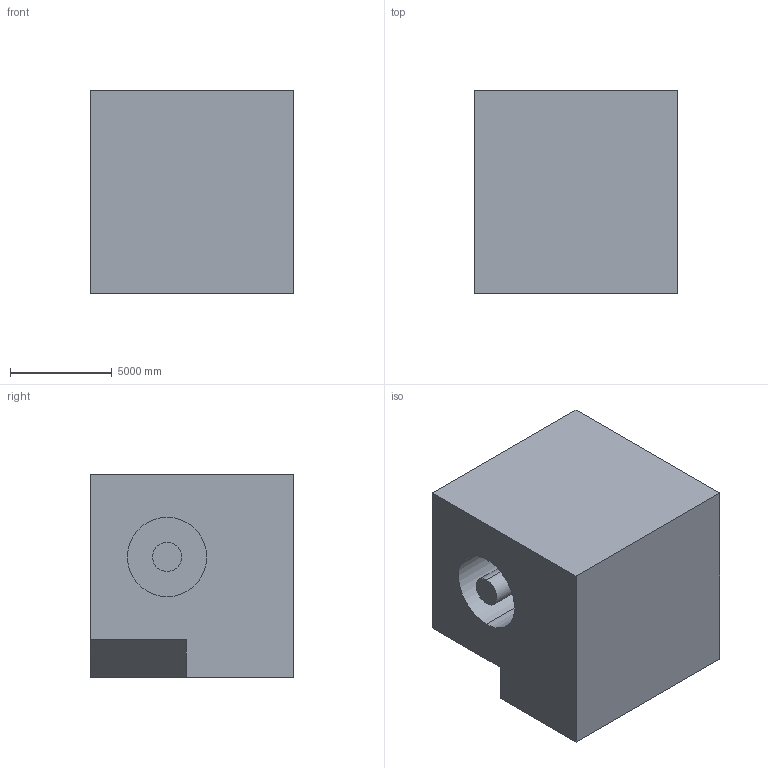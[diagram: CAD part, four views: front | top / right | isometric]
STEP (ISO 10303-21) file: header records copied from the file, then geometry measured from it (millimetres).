
FILE_DESCRIPTION (( 'STEP AP203' ), '1' );
FILE_NAME ('158.STEP', '2022-07-28T13:46:05', ( 'user' ), ( '' ), 'SwSTEP 2.0', 'SolidWorks 2021', '' );
FILE_SCHEMA (( 'CONFIG_CONTROL_DESIGN' ));
Length unit declared in the file: centimetre
Products named in the file (1): 158
Bounding box: 10000 x 10000 x 10000 mm (x, y, z)
Volume: 925341805734.7 mm3; surface area: 692357182.7 mm2
Topology: 1 solids, 1 shells, 14 faces, 30 edges, 20 vertices
Faces by surface type: plane 10, cylinder 4
Entity records: 459 total; most frequent: DIRECTION 68, CARTESIAN_POINT 65, ORIENTED_EDGE 60, EDGE_CURVE 30, AXIS2_PLACEMENT_3D 23, VECTOR 22, LINE 22, VERTEX_POINT 20
